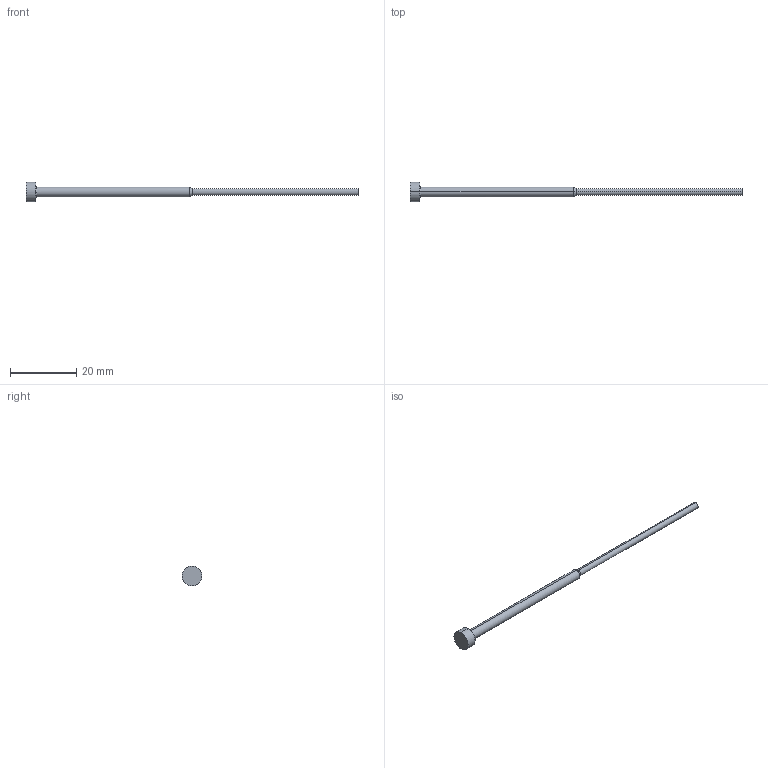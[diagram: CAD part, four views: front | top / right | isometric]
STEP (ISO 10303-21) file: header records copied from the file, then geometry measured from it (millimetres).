
FILE_DESCRIPTION(('CATIA V5 STEP Exchange'),'2;1');
FILE_NAME('C:\Users\Utente\Desktop\IO LAVORO\3D X SITO CF\X SITO\PLASTICA\359\359-2X3X100.stp','2021-05-14T18:21:39+00:00',('none'),('none'),'CATIA Version 5 Release 20 GA (IN-10)','CATIA V5 STEP AP203','none');
FILE_SCHEMA(('CONFIG_CONTROL_DESIGN'));
Length unit declared in the file: millimetre
Products named in the file (1): 359-2X3X100
Bounding box: 100 x 6 x 6 mm (x, y, z)
Volume: 572.5 mm3; surface area: 864.8 mm2
Topology: 1 solids, 1 shells, 13 faces, 38 edges, 28 vertices
Faces by surface type: cylinder 6, plane 3, cone 2, torus 2
Entity records: 526 total; most frequent: CARTESIAN_POINT 140, ORIENTED_EDGE 76, DIRECTION 58, AXIS2_PLACEMENT_3D 38, EDGE_CURVE 38, VERTEX_POINT 28, CIRCLE 24, EDGE_LOOP 14
